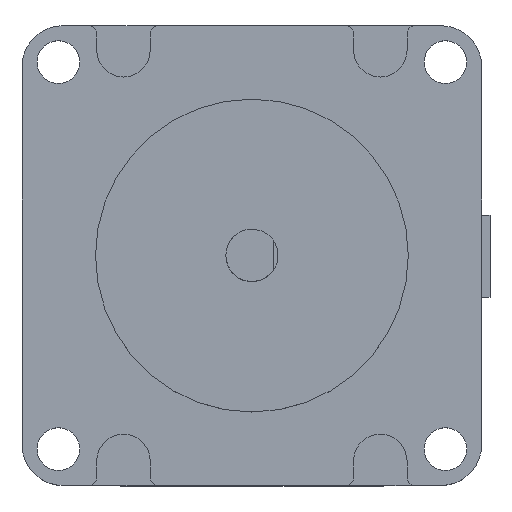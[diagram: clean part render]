
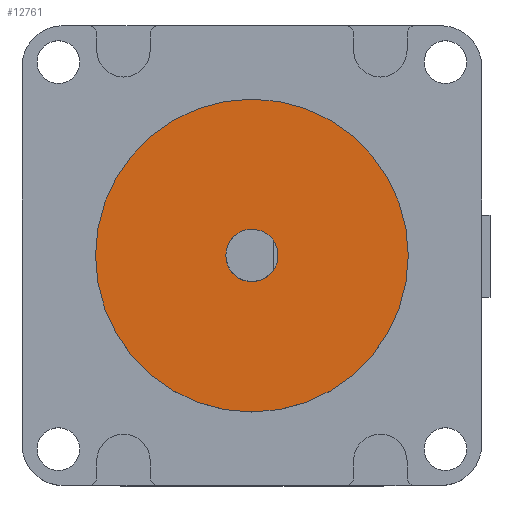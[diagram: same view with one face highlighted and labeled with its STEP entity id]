
A CAD part, top view. The second image highlights one B-rep face of the part: STEP entity #12761.
In plain terms, the highlighted planar face has unit normal (0, 0, 1).
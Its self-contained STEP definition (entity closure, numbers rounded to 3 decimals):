
#12566=CARTESIAN_POINT('',(28.,28.,56.6));
#12567=DIRECTION('',(0.,0.,1.));
#12568=DIRECTION('',(-1.,0.,0.));
#12569=AXIS2_PLACEMENT_3D('',#12566,#12567,#12568);
#12611=CARTESIAN_POINT('',(28.,28.,56.6));
#12612=DIRECTION('',(0.,0.,1.));
#12613=DIRECTION('',(1.,0.,0.));
#12614=AXIS2_PLACEMENT_3D('',#12611,#12612,#12613);
#12620=CARTESIAN_POINT('',(28.,28.,56.6));
#12621=DIRECTION('',(0.,0.,1.));
#12622=DIRECTION('',(1.,0.,0.));
#12623=AXIS2_PLACEMENT_3D('',#12620,#12621,#12622);
#12625=CARTESIAN_POINT('',(28.,28.,56.6));
#12626=DIRECTION('',(0.,0.,1.));
#12627=DIRECTION('',(-1.,0.,0.));
#12628=AXIS2_PLACEMENT_3D('',#12625,#12626,#12627);
#12652=CARTESIAN_POINT('',(47.05,28.,56.6));
#12653=CARTESIAN_POINT('',(8.95,28.,56.6));
#12654=VERTEX_POINT('',#12652);
#12655=VERTEX_POINT('',#12653);
#12656=CARTESIAN_POINT('',(24.825,28.,56.6));
#12657=CARTESIAN_POINT('',(31.175,28.,56.6));
#12658=VERTEX_POINT('',#12656);
#12659=VERTEX_POINT('',#12657);
#12746=CARTESIAN_POINT('',(0.,0.,56.6));
#12747=DIRECTION('',(0.,0.,1.));
#12748=DIRECTION('',(1.,0.,0.));
#12749=AXIS2_PLACEMENT_3D('',#12746,#12747,#12748);
#12750=PLANE('',#12749);
#12752=ORIENTED_EDGE('',*,*,#12751,.F.);
#12754=ORIENTED_EDGE('',*,*,#12753,.F.);
#12755=EDGE_LOOP('',(#12752,#12754));
#12756=FACE_OUTER_BOUND('',#12755,.F.);
#12757=ORIENTED_EDGE('',*,*,#12681,.T.);
#12758=ORIENTED_EDGE('',*,*,#12740,.T.);
#12759=EDGE_LOOP('',(#12757,#12758));
#12760=FACE_BOUND('',#12759,.F.);
#12761=ADVANCED_FACE('',(#12756,#12760),#12750,.T.);
#12570=CIRCLE('',#12569,3.175);
#12615=CIRCLE('',#12614,3.175);
#12624=CIRCLE('',#12623,19.05);
#12629=CIRCLE('',#12628,19.05);
#12681=EDGE_CURVE('',#12658,#12659,#12570,.T.);
#12740=EDGE_CURVE('',#12659,#12658,#12615,.T.);
#12751=EDGE_CURVE('',#12654,#12655,#12624,.T.);
#12753=EDGE_CURVE('',#12655,#12654,#12629,.T.);
